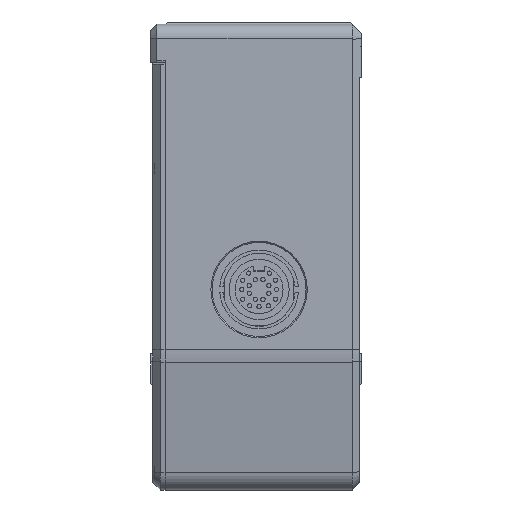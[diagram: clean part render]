
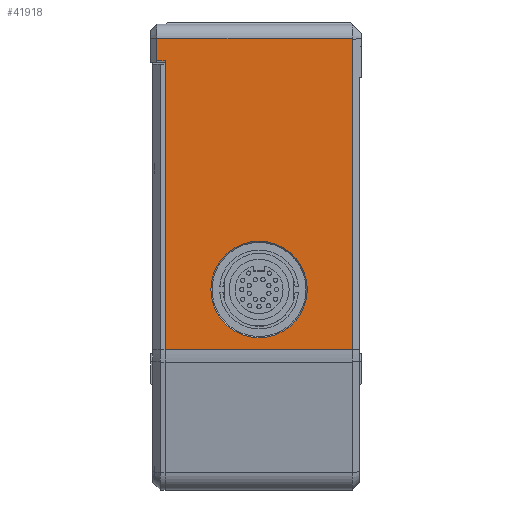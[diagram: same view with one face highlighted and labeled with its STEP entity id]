
A CAD part, front view. The second image highlights one B-rep face of the part: STEP entity #41918.
In plain terms, the highlighted planar face has unit normal (0, -1, 0).
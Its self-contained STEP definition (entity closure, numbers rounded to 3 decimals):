
#30283=DIRECTION('',(0.,0.,1.));
#30284=VECTOR('',#30283,70.663);
#30285=CARTESIAN_POINT('',(-20.5,-134.5,-8.01));
#30286=LINE('',#30285,#30284);
#30287=DIRECTION('',(0.,0.,1.));
#30288=VECTOR('',#30287,5.5);
#30289=CARTESIAN_POINT('',(-22.5,-134.5,62.654));
#30290=LINE('',#30289,#30288);
#30291=CARTESIAN_POINT('',(25.288,-134.5,68.154));
#30292=CARTESIAN_POINT('',(25.288,-134.5,68.133));
#30293=CARTESIAN_POINT('',(25.287,-134.5,
68.091));
#30294=CARTESIAN_POINT('',(25.286,-134.5,
68.028));
#30295=CARTESIAN_POINT('',(25.284,-134.5,
67.987));
#30296=CARTESIAN_POINT('',(25.283,-134.5,
67.966));
#30298=CARTESIAN_POINT('',(2.5,-134.5,6.716));
#30299=DIRECTION('',(0.,-1.,0.));
#30300=DIRECTION('',(-1.,0.,0.));
#30301=AXIS2_PLACEMENT_3D('',#30298,#30299,#30300);
#30303=CARTESIAN_POINT('',(2.5,-134.5,6.716));
#30304=DIRECTION('',(0.,-1.,0.));
#30305=DIRECTION('',(0.,0.,-1.));
#30306=AXIS2_PLACEMENT_3D('',#30303,#30304,#30305);
#30308=CARTESIAN_POINT('',(2.5,-134.5,6.716));
#30309=DIRECTION('',(0.,-1.,0.));
#30310=DIRECTION('',(1.,0.,0.));
#30311=AXIS2_PLACEMENT_3D('',#30308,#30309,#30310);
#30313=CARTESIAN_POINT('',(2.5,-134.5,6.716));
#30314=DIRECTION('',(0.,-1.,0.));
#30315=DIRECTION('',(0.,0.,1.));
#30316=AXIS2_PLACEMENT_3D('',#30313,#30314,#30315);
#30322=DIRECTION('',(0.,0.,1.));
#30323=VECTOR('',#30322,75.976);
#30324=CARTESIAN_POINT('',(25.283,-134.5,-8.01));
#30325=LINE('',#30324,#30323);
#30893=DIRECTION('',(-1.,0.,0.));
#30894=VECTOR('',#30893,47.788);
#30895=CARTESIAN_POINT('',(25.288,-134.5,68.154));
#30896=LINE('',#30895,#30894);
#31003=DIRECTION('',(1.,0.,0.));
#31004=VECTOR('',#31003,2.);
#31005=CARTESIAN_POINT('',(-22.5,-134.5,62.654));
#31006=LINE('',#31005,#31004);
#31953=DIRECTION('',(1.,0.,0.));
#31954=VECTOR('',#31953,45.783);
#31955=CARTESIAN_POINT('',(-20.5,-134.5,-8.01));
#31956=LINE('',#31955,#31954);
#35004=CARTESIAN_POINT('',(-20.5,-134.5,-8.01));
#35005=CARTESIAN_POINT('',(-20.5,-134.5,62.654));
#35006=VERTEX_POINT('',#35004);
#35007=VERTEX_POINT('',#35005);
#35423=CARTESIAN_POINT('',(25.283,-134.5,-8.01));
#35424=CARTESIAN_POINT('',(25.283,-134.5,
67.966));
#35425=VERTEX_POINT('',#35423);
#35426=VERTEX_POINT('',#35424);
#35427=CARTESIAN_POINT('',(-22.5,-134.5,62.654));
#35428=VERTEX_POINT('',#35427);
#35429=CARTESIAN_POINT('',(-22.5,-134.5,
68.154));
#35430=VERTEX_POINT('',#35429);
#35431=CARTESIAN_POINT('',(25.288,-134.5,68.154));
#35432=VERTEX_POINT('',#35431);
#35433=CARTESIAN_POINT('',(2.5,-134.5,-5.084));
#35434=CARTESIAN_POINT('',(14.3,-134.5,6.716));
#35435=VERTEX_POINT('',#35433);
#35436=VERTEX_POINT('',#35434);
#35437=CARTESIAN_POINT('',(-9.3,-134.5,6.716));
#35438=VERTEX_POINT('',#35437);
#35439=CARTESIAN_POINT('',(2.5,-134.5,18.516));
#35440=VERTEX_POINT('',#35439);
#41888=CARTESIAN_POINT('',(33.5,-134.5,-13.084));
#41889=DIRECTION('',(0.,-1.,0.));
#41890=DIRECTION('',(0.,0.,-1.));
#41891=AXIS2_PLACEMENT_3D('',#41888,#41889,#41890);
#41892=PLANE('',#41891);
#41894=ORIENTED_EDGE('',*,*,#41893,.F.);
#41896=ORIENTED_EDGE('',*,*,#41895,.F.);
#41897=ORIENTED_EDGE('',*,*,#41645,.T.);
#41899=ORIENTED_EDGE('',*,*,#41898,.F.);
#41901=ORIENTED_EDGE('',*,*,#41900,.T.);
#41903=ORIENTED_EDGE('',*,*,#41902,.F.);
#41905=ORIENTED_EDGE('',*,*,#41904,.T.);
#41906=EDGE_LOOP('',(#41894,#41896,#41897,#41899,#41901,#41903,#41905));
#41907=FACE_OUTER_BOUND('',#41906,.F.);
#41909=ORIENTED_EDGE('',*,*,#41908,.T.);
#41911=ORIENTED_EDGE('',*,*,#41910,.T.);
#41913=ORIENTED_EDGE('',*,*,#41912,.T.);
#41915=ORIENTED_EDGE('',*,*,#41914,.T.);
#41916=EDGE_LOOP('',(#41909,#41911,#41913,#41915));
#41917=FACE_BOUND('',#41916,.F.);
#30297=B_SPLINE_CURVE_WITH_KNOTS('',3,(#30291,#30292,#30293,#30294,#30295,
#30296),.UNSPECIFIED.,.F.,.F.,(4,1,1,4),(0.,0.333,
0.667,1.),.UNSPECIFIED.);
#30302=CIRCLE('',#30301,11.8);
#30307=CIRCLE('',#30306,11.8);
#30312=CIRCLE('',#30311,11.8);
#30317=CIRCLE('',#30316,11.8);
#41645=EDGE_CURVE('',#35006,#35007,#30286,.T.);
#41893=EDGE_CURVE('',#35425,#35426,#30325,.T.);
#41895=EDGE_CURVE('',#35006,#35425,#31956,.T.);
#41898=EDGE_CURVE('',#35428,#35007,#31006,.T.);
#41900=EDGE_CURVE('',#35428,#35430,#30290,.T.);
#41902=EDGE_CURVE('',#35432,#35430,#30896,.T.);
#41904=EDGE_CURVE('',#35432,#35426,#30297,.T.);
#41908=EDGE_CURVE('',#35438,#35435,#30302,.T.);
#41910=EDGE_CURVE('',#35435,#35436,#30307,.T.);
#41912=EDGE_CURVE('',#35436,#35440,#30312,.T.);
#41914=EDGE_CURVE('',#35440,#35438,#30317,.T.);
#41918=ADVANCED_FACE('',(#41907,#41917),#41892,.T.);
